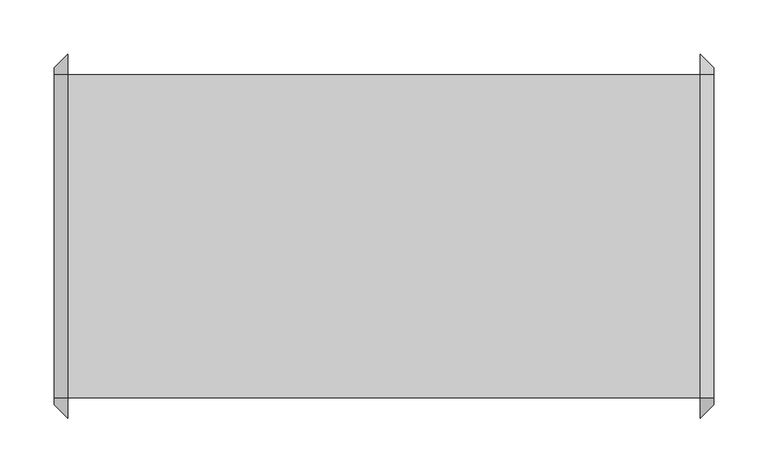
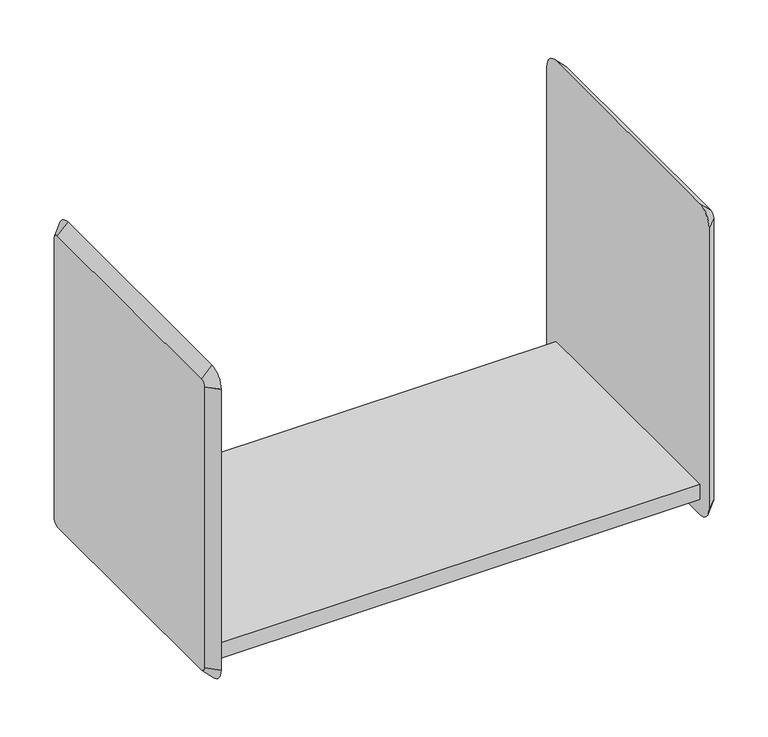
"""IFC4 building model written with IfcOpenShell, lengths in millimetres: furniture geometry, HermanMiller_ActionOffice_A3210_B-StyleShelf : 15-1/2H 13D 24W."""

from ifc_helpers import new_model, si_unit, frame, origin, place, context, project, spatial, polyline, circle_curve, outline, extrude, source, transform, mapped, element, save
from ifc_brep_helpers import plane_surface, revolved_surface, advanced_brep


def furniture_371e57b5(model_context):
    return source(origin(), model_context, "Body", "SolidModel", [
        extrude(outline(polyline([(168.1579955, 161.925), (168.1579955, 158.75), (-416.0420045, 158.75), (-416.0420045, 161.925), (168.1579955, 161.925)])), frame((0.0, 0.0, 1657.3152313), z_axis=(0.0, 0.0, 1.0), x_axis=(1.0, 0.0, 0.0)), (0.0, 0.0, 1.0), 15.9097687),
        extrude(outline(polyline([(-136.525, 1676.4), (161.925, 1676.4), (161.925, 1673.225), (-133.35, 1673.225), (-133.35, 1657.3152313), (-136.525, 1657.3152313), (-136.525, 1676.4)])), frame((-416.0420045, 0.0, 0.0), z_axis=(1.0, 0.0, 0.0), x_axis=(0.0, 1.0, 0.0)), (0.0, 0.0, 1.0), 584.2),
        advanced_brep(
        [(180.8579955, 161.925, 2019.3), (180.8579955, -136.525, 2019.3), (180.8579955, -142.875, 2012.95), (180.8579955, -142.875, 1657.35), (180.8579955, -136.525, 1651.0), (180.8579955, 161.925, 1651.0), (180.8579955, 168.275, 1657.35), (180.8579955, 168.275, 2012.95), (168.1579955, 161.925, 2032.0), (168.1579955, 180.975, 2012.95), (168.1579955, 180.975, 1657.35), (168.1579955, 161.925, 1638.3), (168.1579955, -136.525, 1638.3), (168.1579955, -155.575, 1657.35), (168.1579955, -155.575, 2012.95), (168.1579955, -136.525, 2032.0)],
        [
            (0, 1),
            (1, 2, circle_curve(frame((180.8579955, -136.525, 2012.95), z_axis=(1.0, 5.861977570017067e-12, -5.9898752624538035e-12), x_axis=(5.989902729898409e-12, 0.0, 1.0)), 6.35)),
            (2, 3),
            (3, 4, circle_curve(frame((180.8579955, -136.525, 1657.35), z_axis=(1.0, 5.134559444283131e-12, 5.115907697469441e-12), x_axis=(5.1345163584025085e-12, -1.0, 0.0)), 6.35)),
            (4, 5),
            (5, 6, circle_curve(frame((180.8579955, 161.925, 1657.35), z_axis=(1.0, 5.174527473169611e-12, -5.201172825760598e-12), x_axis=(-5.201245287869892e-12, 0.0, -1.0)), 6.35)),
            (6, 7),
            (7, 0, circle_curve(frame((180.8579955, 161.925, 2012.95), z_axis=(1.0, 5.869971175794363e-12, 5.755396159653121e-12), x_axis=(-5.869947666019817e-12, 1.0, 0.0)), 6.35)),
            (8, 9, circle_curve(frame((168.1579955, 161.925, 2012.95), z_axis=(-1.0, -5.869971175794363e-12, -5.755396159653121e-12), x_axis=(-5.869947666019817e-12, 1.0, 0.0)), 19.05)),
            (9, 10),
            (10, 11, circle_curve(frame((168.1579955, 161.925, 1657.35), z_axis=(-1.0, -5.174527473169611e-12, 5.201172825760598e-12), x_axis=(-5.201245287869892e-12, 0.0, -1.0)), 19.05)),
            (11, 12),
            (12, 13, circle_curve(frame((168.1579955, -136.525, 1657.35), z_axis=(-1.0, -5.134559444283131e-12, -5.115907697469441e-12), x_axis=(5.1345163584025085e-12, -1.0, 0.0)), 19.05)),
            (13, 14),
            (14, 15, circle_curve(frame((168.1579955, -136.525, 2012.95), z_axis=(-1.0, -5.861977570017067e-12, 5.9898752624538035e-12), x_axis=(5.989902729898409e-12, 0.0, 1.0)), 19.05)),
            (15, 8),
            (15, 1),
            (0, 8),
            (14, 2),
            (13, 3),
            (12, 4),
            (11, 5),
            (10, 6),
            (9, 7),
        ],
        [
            plane_surface(frame((180.8579955, 12.7, 1835.15), z_axis=(1.0, 0.0, 0.0), x_axis=(0.0, -1.0, 0.0))),
            plane_surface(frame((168.1579955, 12.7, 1835.15), z_axis=(-1.0, 0.0, 0.0), x_axis=(0.0, -1.0, 0.0))),
            plane_surface(frame((168.1579955, 12.7, 2032.0), z_axis=(0.7071067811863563, 0.0, 0.7071067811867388), x_axis=(0.0, -1.0, 0.0))),
            revolved_surface(polyline([(180.85799550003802, -136.525, 2019.299999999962), (168.1579955, -136.525, 2032.0)]), (187.2079955, -136.525, 2012.95), (-1.0, -5.861977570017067e-12, 5.9898752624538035e-12)),
            plane_surface(frame((168.1579955, -155.575, 1835.15), z_axis=(0.7071067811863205, -0.7071067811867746, 0.0), x_axis=(0.0, 0.0, -1.0))),
            revolved_surface(polyline([(180.8579955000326, -142.87499999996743, 1657.35), (168.1579955, -155.575, 1657.35)]), (187.2079955, -136.525, 1657.35), (-1.0, -5.134559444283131e-12, -5.115907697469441e-12)),
            plane_surface(frame((168.1579955, 12.7, 1638.3), z_axis=(0.707106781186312, 0.0, -0.707106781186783), x_axis=(0.0, 1.0, 0.0))),
            revolved_surface(polyline([(180.8579955, 161.925, 1651.0), (168.15799549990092, 161.925, 1638.2999999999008)]), (187.2079955, 161.925, 1657.35), (-1.0, -5.174527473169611e-12, 5.201172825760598e-12)),
            plane_surface(frame((168.1579955, 180.975, 1835.15), z_axis=(0.7071067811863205, 0.7071067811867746, 0.0), x_axis=(0.0, 0.0, 1.0))),
            revolved_surface(polyline([(180.8579955, 168.27500000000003, 2012.95), (168.1579954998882, 180.9750000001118, 2012.95)]), (187.2079955, 161.925, 2012.95), (-1.0, -5.869971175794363e-12, -5.755396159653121e-12)),
        ],
        [
            (0, [[1, 2, 3, 4, 5, 6, 7, 8]]),
            (1, [[9, 10, 11, 12, 13, 14, 15, 16]]),
            (2, [[-16, 17, -1, 18]]),
            (3, [[-15, 19, -2, -17]]),
            (4, [[-14, 20, -3, -19]]),
            (5, [[-13, 21, -4, -20]]),
            (6, [[-12, 22, -5, -21]]),
            (7, [[-11, 23, -6, -22]]),
            (8, [[-10, 24, -7, -23]]),
            (9, [[-9, -18, -8, -24]]),
        ],
    ),
        advanced_brep(
        [(-428.7420045, -136.525, 2019.3), (-428.7420045, 161.925, 2019.3), (-428.7420045, 168.275, 2012.95), (-428.7420045, 168.275, 1657.35), (-428.7420045, 161.925, 1651.0), (-428.7420045, -136.525, 1651.0), (-428.7420045, -142.875, 1657.35), (-428.7420045, -142.875, 2012.95), (-416.0420045, -136.525, 2032.0), (-416.0420045, -155.575, 2012.95), (-416.0420045, -155.575, 1657.35), (-416.0420045, -136.525, 1638.3), (-416.0420045, 161.925, 1638.3), (-416.0420045, 180.975, 1657.35), (-416.0420045, 180.975, 2012.95), (-416.0420045, 161.925, 2032.0)],
        [
            (0, 1),
            (1, 2, circle_curve(frame((-428.7420045, 161.925, 2012.95), z_axis=(-1.0, 3.434585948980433e-12, 3.5385028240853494e-12), x_axis=(3.5385173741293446e-12, 0.0, 1.0)), 6.35)),
            (2, 3),
            (3, 4, circle_curve(frame((-428.7420045, 161.925, 1657.35), z_axis=(-1.0, 0.0, 0.0), x_axis=(0.0, 1.0, 0.0)), 6.35)),
            (4, 5),
            (5, 6, circle_curve(frame((-428.7420045, -136.525, 1657.35), z_axis=(-1.0, 0.0, 0.0), x_axis=(0.0, 0.0, -1.0)), 6.35)),
            (6, 7),
            (7, 0, circle_curve(frame((-428.7420045, -136.525, 2012.95), z_axis=(-1.0, 3.4305891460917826e-12, -3.325340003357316e-12), x_axis=(-3.430652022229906e-12, -1.0, 0.0)), 6.35)),
            (8, 9, circle_curve(frame((-416.0420045, -136.525, 2012.95), z_axis=(1.0, -3.4305891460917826e-12, 3.325340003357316e-12), x_axis=(-3.430652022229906e-12, -1.0, 0.0)), 19.05)),
            (9, 10),
            (10, 11, circle_curve(frame((-416.0420045, -136.525, 1657.35), z_axis=(1.0, 0.0, 0.0), x_axis=(0.0, 0.0, -1.0)), 19.05)),
            (11, 12),
            (12, 13, circle_curve(frame((-416.0420045, 161.925, 1657.35), z_axis=(1.0, 0.0, 0.0), x_axis=(0.0, 1.0, 0.0)), 19.05)),
            (13, 14),
            (14, 15, circle_curve(frame((-416.0420045, 161.925, 2012.95), z_axis=(1.0, -3.434585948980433e-12, -3.5385028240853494e-12), x_axis=(3.5385173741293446e-12, 0.0, 1.0)), 19.05)),
            (15, 8),
            (15, 1),
            (0, 8),
            (14, 2),
            (13, 3),
            (12, 4),
            (11, 5),
            (10, 6),
            (9, 7),
        ],
        [
            plane_surface(frame((-428.7420045, 12.7, 1835.15), z_axis=(-1.0, 0.0, 0.0), x_axis=(0.0, -1.0, 0.0))),
            plane_surface(frame((-416.0420045, 12.7, 1835.15), z_axis=(1.0, 0.0, 0.0), x_axis=(0.0, -1.0, 0.0))),
            plane_surface(frame((-416.0420045, 12.7, 2032.0), z_axis=(-0.7071067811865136, 0.0, 0.7071067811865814), x_axis=(0.0, 1.0, 0.0))),
            revolved_surface(polyline([(-428.7420045, 161.925, 2019.3), (-416.0420044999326, 161.925, 2032.0000000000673)]), (-435.0920045, 161.925, 2012.95), (1.0, -3.434585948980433e-12, -3.5385028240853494e-12)),
            plane_surface(frame((-416.0420045, 180.975, 1835.15), z_axis=(-0.7071067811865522, 0.7071067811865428, 0.0), x_axis=(0.0, 0.0, -1.0))),
            revolved_surface(polyline([(-428.7420045, 168.27499999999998, 1657.35), (-416.0420045, 180.975, 1657.35)]), (-435.0920045, 161.925, 1657.35), (1.0, 0.0, 0.0)),
            plane_surface(frame((-416.0420045, 12.7, 1638.3), z_axis=(-0.7071067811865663, 0.0, -0.7071067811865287), x_axis=(0.0, -1.0, 0.0))),
            revolved_surface(polyline([(-428.7420045, -136.525, 1651.0), (-416.0420045, -136.525, 1638.3)]), (-435.0920045, -136.525, 1657.35), (1.0, 0.0, 0.0)),
            plane_surface(frame((-416.0420045, -155.575, 1835.15), z_axis=(-0.7071067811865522, -0.7071067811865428, 0.0), x_axis=(0.0, 0.0, 1.0))),
            revolved_surface(polyline([(-428.7420045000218, -142.8749999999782, 2012.95), (-416.0420045, -155.575, 2012.95)]), (-435.0920045, -136.525, 2012.95), (1.0, -3.4305891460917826e-12, 3.325340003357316e-12)),
        ],
        [
            (0, [[1, 2, 3, 4, 5, 6, 7, 8]]),
            (1, [[9, 10, 11, 12, 13, 14, 15, 16]]),
            (2, [[-16, 17, -1, 18]]),
            (3, [[-15, 19, -2, -17]]),
            (4, [[-14, 20, -3, -19]]),
            (5, [[-13, 21, -4, -20]]),
            (6, [[-12, 22, -5, -21]]),
            (7, [[-11, 23, -6, -22]]),
            (8, [[-10, 24, -7, -23]]),
            (9, [[-9, -18, -8, -24]]),
        ],
    ),
    ])


if __name__ == "__main__":
    model = new_model("IFC4")
    model_context = context("Model", 3, world=origin())
    ifc_project = project(units=[si_unit("LENGTHUNIT", "METRE", prefix="MILLI")], contexts=[model_context])
    site = spatial("IfcSite", under=ifc_project)
    building = spatial("IfcBuilding", under=site)
    placement = place(None, origin())
    furniture_shape = furniture_371e57b5(model_context)
    element("IfcFurniture", 1, ObjectType="HermanMiller_ActionOffice_A3210_B-StyleShelf : 15-1/2H 13D 24W", at=placement, inside=building, context=model_context, shape_type="MappedRepresentation", body=[
        mapped(furniture_shape, transform((0.0, 0.0, 0.0), x_axis=(1.0, 0.0, 0.0), y_axis=(0.0, 1.0, 0.0), z_axis=(0.0, 0.0, 1.0))),
    ])
    save(model, "model.ifc")
